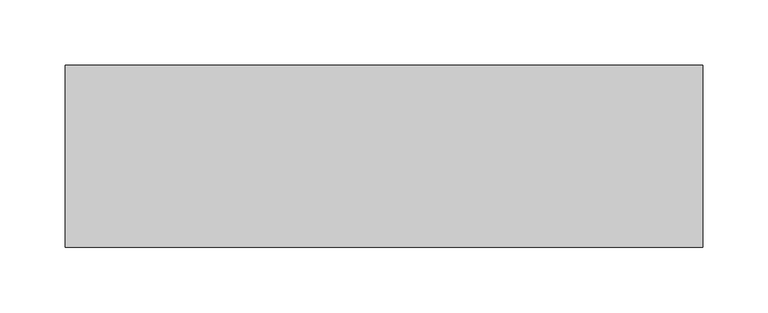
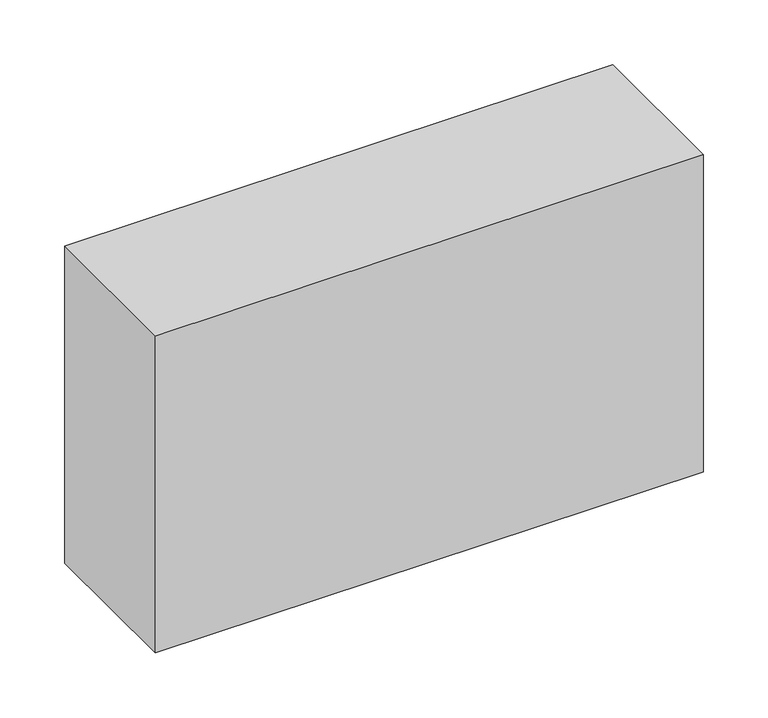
"""IFC4 building model written with IfcOpenShell, lengths in millimetres: proxy geometry."""

from ifc_helpers import new_model, si_unit, frame, origin, place, context, project, spatial, polyline, outline, extrude, source, transform, mapped, element, save


def structural_framing_8d2376c2(model_context):
    return source(origin(), model_context, "Body", "SweptSolid", [
        extrude(outline(polyline([(-245.04, -69.9299914), (-245.0, 70.0700029), (245.04, 69.9299914), (245.0, -70.0700029), (-245.04, -69.9299914)])), frame((0.0, 0.0, -300.0), z_axis=(0.0, 0.0, 1.0), x_axis=(1.0, 0.0, 0.0)), (0.0, 0.0, 1.0), 300.0),
    ])


if __name__ == "__main__":
    model = new_model("IFC4")
    model_context = context("Model", 3, world=origin())
    ifc_project = project(units=[si_unit("LENGTHUNIT", "METRE", prefix="MILLI")], contexts=[model_context])
    site = spatial("IfcSite", under=ifc_project)
    building = spatial("IfcBuilding", under=site)
    placement = place(None, origin())
    structural_framing_shape = structural_framing_8d2376c2(model_context)
    element("IfcBuildingElementProxy", 1, Name="Structural Framing", at=placement, inside=building, context=model_context, shape_type="MappedRepresentation", body=[
        mapped(structural_framing_shape, transform((0.0, 0.0, 0.0), x_axis=(1.0, 0.0, 0.0), y_axis=(0.0, 1.0, 0.0), z_axis=(0.0, 0.0, 1.0))),
    ])
    save(model, "model.ifc")
